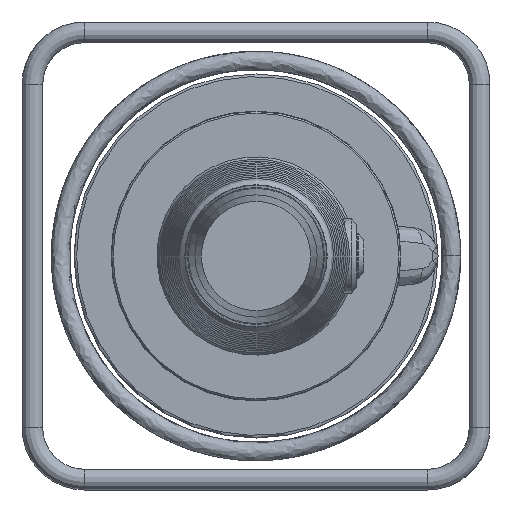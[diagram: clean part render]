
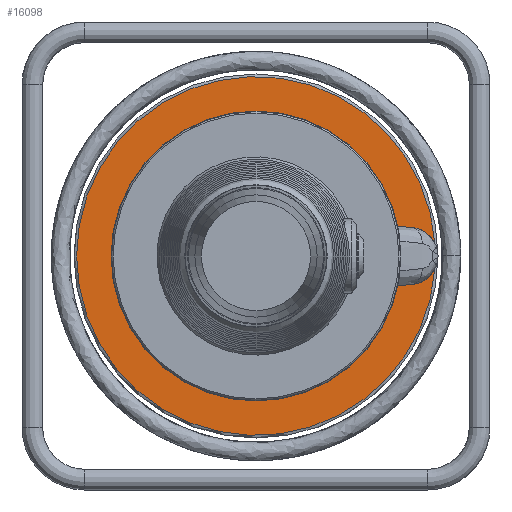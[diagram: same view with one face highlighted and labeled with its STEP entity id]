
A CAD part, left-side view. The second image highlights one B-rep face of the part: STEP entity #16098.
In plain terms, the highlighted planar face has unit normal (-1, 0, 0).
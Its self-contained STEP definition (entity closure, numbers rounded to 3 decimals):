
#685=CIRCLE('',#17064,22.);
#686=CIRCLE('',#17065,138.);
#687=CIRCLE('',#17066,22.);
#688=CIRCLE('',#17067,10.);
#689=CIRCLE('',#17068,91.5);
#690=CIRCLE('',#17069,10.);
#2422=PLANE('',#17063);
#3135=FACE_OUTER_BOUND('',#4176,.T.);
#4176=EDGE_LOOP('',(#14168,#14169,#14170,#14171,#14172,#14173,#14174,#14175));
#5605=LINE('',#33162,#6516);
#5606=LINE('',#33169,#6517);
#6516=VECTOR('',#19822,30.808);
#6517=VECTOR('',#19829,30.808);
#7798=VERTEX_POINT('',#33154);
#7799=VERTEX_POINT('',#33155);
#7800=VERTEX_POINT('',#33157);
#7801=VERTEX_POINT('',#33159);
#7802=VERTEX_POINT('',#33161);
#7803=VERTEX_POINT('',#33163);
#7804=VERTEX_POINT('',#33165);
#7805=VERTEX_POINT('',#33167);
#9992=EDGE_CURVE('',#7798,#7799,#685,.T.);
#9993=EDGE_CURVE('',#7800,#7799,#686,.T.);
#9994=EDGE_CURVE('',#7800,#7801,#687,.T.);
#9995=EDGE_CURVE('',#7801,#7802,#5605,.T.);
#9996=EDGE_CURVE('',#7802,#7803,#688,.T.);
#9997=EDGE_CURVE('',#7803,#7804,#689,.T.);
#9998=EDGE_CURVE('',#7804,#7805,#690,.T.);
#9999=EDGE_CURVE('',#7805,#7798,#5606,.T.);
#14168=ORIENTED_EDGE('',*,*,#9992,.T.);
#14169=ORIENTED_EDGE('',*,*,#9993,.F.);
#14170=ORIENTED_EDGE('',*,*,#9994,.T.);
#14171=ORIENTED_EDGE('',*,*,#9995,.T.);
#14172=ORIENTED_EDGE('',*,*,#9996,.T.);
#14173=ORIENTED_EDGE('',*,*,#9997,.T.);
#14174=ORIENTED_EDGE('',*,*,#9998,.T.);
#14175=ORIENTED_EDGE('',*,*,#9999,.T.);
#16098=ADVANCED_FACE('',(#3135),#2422,.T.);
#17063=AXIS2_PLACEMENT_3D('',#33153,#19814,#19815);
#17064=AXIS2_PLACEMENT_3D('',#33156,#19816,#19817);
#17065=AXIS2_PLACEMENT_3D('',#33158,#19818,#19819);
#17066=AXIS2_PLACEMENT_3D('',#33160,#19820,#19821);
#17067=AXIS2_PLACEMENT_3D('',#33164,#19823,#19824);
#17068=AXIS2_PLACEMENT_3D('',#33166,#19825,#19826);
#17069=AXIS2_PLACEMENT_3D('',#33168,#19827,#19828);
#19814=DIRECTION('center_axis',(-1.,0.,0.));
#19815=DIRECTION('ref_axis',(0.,1.,0.));
#19816=DIRECTION('center_axis',(1.,0.,0.));
#19817=DIRECTION('ref_axis',(0.,0.087,0.996));
#19818=DIRECTION('center_axis',(1.,0.,0.));
#19819=DIRECTION('ref_axis',(0.,0.,
1.));
#19820=DIRECTION('center_axis',(1.,0.,0.));
#19821=DIRECTION('ref_axis',(0.,0.087,0.996));
#19822=DIRECTION('',(0.,0.996,-0.087));
#19823=DIRECTION('center_axis',(-1.,0.,0.));
#19824=DIRECTION('ref_axis',(0.,0.087,0.996));
#19825=DIRECTION('center_axis',(1.,0.,0.));
#19826=DIRECTION('ref_axis',(0.,0.,
1.));
#19827=DIRECTION('center_axis',(-1.,0.,0.));
#19828=DIRECTION('ref_axis',(0.,0.934,-0.358));
#19829=DIRECTION('',(0.,-0.996,-0.087));
#33153=CARTESIAN_POINT('Origin',(-31.471,81.707,114.75));
#33154=CARTESIAN_POINT('',(-31.471,-38.21,21.916));
#33155=CARTESIAN_POINT('',(-31.471,-55.937,9.905));
#33156=CARTESIAN_POINT('Origin',(-31.471,-36.293,0.));
#33157=CARTESIAN_POINT('',(-31.471,-55.937,-9.905));
#33158=CARTESIAN_POINT('Origin',(-31.471,81.707,0.));
#33159=CARTESIAN_POINT('',(-31.471,-38.21,-21.916));
#33160=CARTESIAN_POINT('Origin',(-31.471,-36.293,0.));
#33161=CARTESIAN_POINT('',(-31.471,-7.519,-24.601));
#33162=CARTESIAN_POINT('',(-31.471,15.36,-26.603));
#33163=CARTESIAN_POINT('',(-31.471,-6.377,-24.768));
#33164=CARTESIAN_POINT('Origin',(-31.471,-8.391,-34.563));
#33165=CARTESIAN_POINT('',(-31.471,-6.377,24.768));
#33166=CARTESIAN_POINT('Origin',(-31.471,81.707,0.));
#33167=CARTESIAN_POINT('',(-31.471,-7.519,24.601));
#33168=CARTESIAN_POINT('Origin',(-31.471,-8.391,34.563));
#33169=CARTESIAN_POINT('',(-31.471,40.669,28.817));
